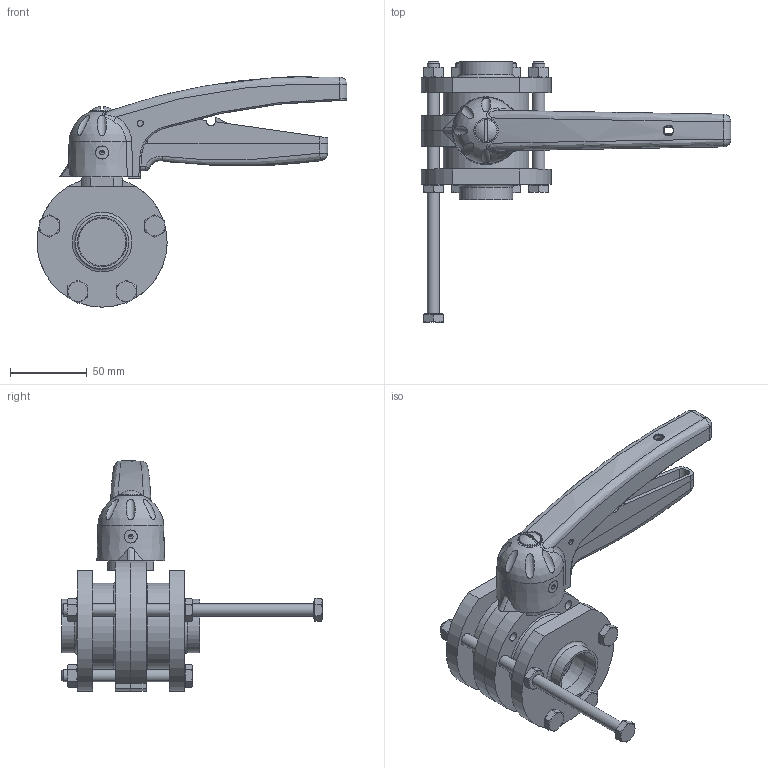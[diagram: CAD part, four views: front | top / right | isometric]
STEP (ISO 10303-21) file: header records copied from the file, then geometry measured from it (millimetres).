
FILE_DESCRIPTION(/* description */ ('VVF VALV.FARF.DN32(35X1.5) WAF4 316 EPDM LEVA 5POS.'),/* implementation_level */ '2;1');
FILE_NAME(/* name */ 'C:\_DED_PWS\GIOR-G\DB\B\EBA\BEBAC6032BEAA-00^SAGOMA.step',/* time_stamp */ '2022-09-22T17:03:41+02:00',/* author */ (''),/* organization */ (''),/* preprocessor_version */ 'ST-DEVELOPER v18.1',/* originating_system */ 'Autodesk Inventor 2022',/* authorisation */ '');
FILE_SCHEMA (('CONFIG_CONTROL_DESIGN'));
Length unit declared in the file: millimetre
Products named in the file (6): BEBAC6032BEAA; MEZZO-COR-DN032-WAFER-4; FLANGIA-DN32-WAFER-4; UNI 5588 - M8; Maniglia-5-posizioni-nuova-versione finale 01-2008- 25 - - 65; UNI 5739 - M8 x 80
Assembly tree (14 placements, depth 2):
  BEBAC6032BEAA
    FLANGIA-DN32-WAFER-4  x2
    MEZZO-COR-DN032-WAFER-4  x2
    UNI 5739 - M8 x 80  x5
    UNI 5588 - M8  x4
    Maniglia-5-posizioni-nuova-versione finale 01-2008- 25 - - 65
Bounding box: 202.5 x 170 x 150.39 mm (x, y, z)
Volume: 385055 mm3; surface area: 136964.5 mm2
Topology: 14 solids, 15 shells, 663 faces, 1610 edges, 1008 vertices
Faces by surface type: plane 294, cylinder 136, cone 121, bspline 81, sphere 18, torus 13
Full cylindrical faces by diameter (mm): 4 x3, 6 x2, 6.2 x4, 6.5 x1, 6.647 x4, 8 x5, 8.5 x12, 11.63 x5, 13 x1, 14.5 x1, 31 x2, 32 x2, 34.6 x2, 35 x2, 42 x2, 56 x2
Entity records: 24012 total; most frequent: CARTESIAN_POINT 12321, ORIENTED_EDGE 2444, DIRECTION 2133, EDGE_CURVE 1222, AXIS2_PLACEMENT_3D 777, VERTEX_POINT 772, LINE 579, VECTOR 579
